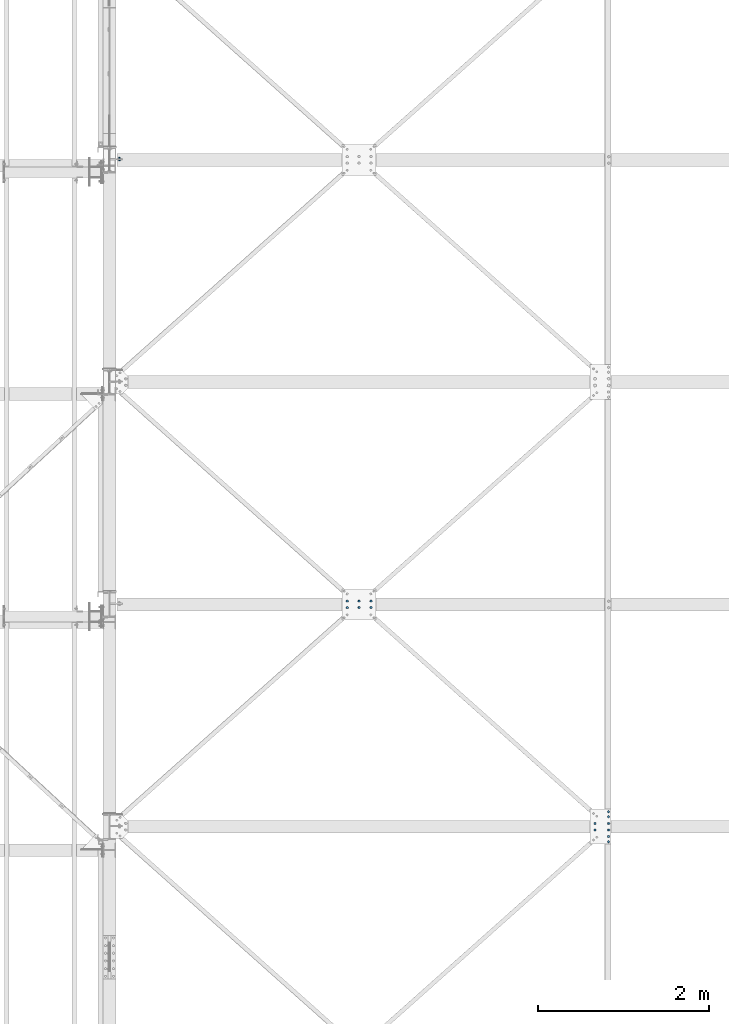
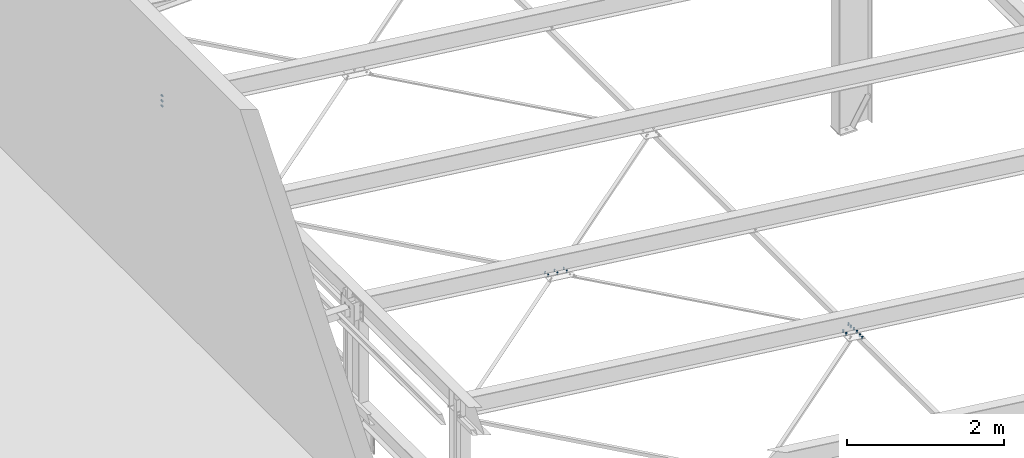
# One storey, part 199 of 3134: 5 mechanical fasteners, 4 elements without a shape of their own.
"""IFC2X3 building model written with IfcOpenShell, lengths in millimetres."""

from ifc_helpers import new_model, si_unit, frame, origin_with_axes, place, context, subcontext, project, spatial, faceted_brep, source, transform, mapped, material, type_object, element, aggregate, save


model = new_model("IFC2X3")

# Units and contexts
model_context = context("Model", 3, precision=1e-05, world=origin_with_axes())
body_context = subcontext(model_context, "Body", "Model", "MODEL_VIEW")
ifc_project = project(units=[si_unit("LENGTHUNIT", "METRE", prefix="MILLI"), si_unit("AREAUNIT", "SQUARE_METRE"), si_unit("VOLUMEUNIT", "CUBIC_METRE"), si_unit("MASSUNIT", "GRAM", prefix="KILO"), si_unit("TIMEUNIT", "SECOND"), si_unit("PLANEANGLEUNIT", "RADIAN"), si_unit("SOLIDANGLEUNIT", "STERADIAN"), si_unit("THERMODYNAMICTEMPERATUREUNIT", "DEGREE_CELSIUS"), si_unit("LUMINOUSINTENSITYUNIT", "LUMEN")], contexts=[model_context])

# Site, building, storey
site_placement = place(None, origin_with_axes())
site = spatial("IfcSite", under=ifc_project, at=site_placement, CompositionType="ELEMENT")
building_placement = place(site_placement, origin_with_axes())
building = spatial("IfcBuilding", under=site, at=building_placement, Name="Undefined", CompositionType="ELEMENT")
storey_placement = place(building_placement, origin_with_axes())
storey = spatial("IfcBuildingStorey", under=building, at=storey_placement, Name="Undefined", CompositionType="ELEMENT", Elevation=0.0)

# Assembly, mechanical fastener
assembly_1_placement = place(storey_placement, origin_with_axes())
assembly_1 = element("IfcElementAssembly", 1, at=assembly_1_placement, inside=storey, Name="300", AssemblyPlace="NOTDEFINED", PredefinedType="RIGID_FRAME")
ifc_material = material(Name="8.8")
mechanical_fastener_type = type_object("IfcMechanicalFastenerType", Name="Bolt assembly")
shared_shape_1 = source(origin_with_axes(), body_context, "Body", "Brep", [
    faceted_brep([(13.856406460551, -19.199990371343, 0.0), (6.92820323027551, -19.199990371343, 12.0), (-6.92820323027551, -19.199990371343, 12.0), (-13.856406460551, -19.199990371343, 1.69692038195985e-15), (-6.92820323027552, -19.199990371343, -12.0), (6.9282032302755, -19.199990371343, -12.0), (6.9282032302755, -9.19999037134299, -12.0), (-6.92820323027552, -9.19999037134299, -12.0), (-13.856406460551, -9.19999037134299, 1.69692038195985e-15), (-6.92820323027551, -9.19999037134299, 12.0), (6.92820323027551, -9.19999037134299, 12.0), (13.856406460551, -9.19999037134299, 0.0), (8.0, -9.19999037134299, 0.0), (6.92820323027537, -9.19999037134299, 4.00000000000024), (3.99999999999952, -9.19999037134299, 6.92820323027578), (-8.29068785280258e-13, -9.19999037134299, 8.0), (-4.00000000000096, -9.19999037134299, 6.92820323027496), (-6.9282032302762, -9.19999037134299, 3.99999999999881), (-8.0, -9.19999037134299, -1.65813757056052e-12), (-6.92820323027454, -9.19999037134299, -4.00000000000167), (-3.99999999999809, -9.19999037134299, -6.92820323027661), (2.47832457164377e-12, -9.19999037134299, -8.0), (4.00000000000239, -9.19999037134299, -6.92820323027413), (6.92820323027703, -9.19999037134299, -3.99999999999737), (6.92820323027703, 25.800009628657, -3.99999999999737), (4.00000000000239, 25.800009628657, -6.92820323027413), (2.47832457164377e-12, 25.800009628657, -8.0), (-3.99999999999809, 25.800009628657, -6.92820323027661), (-6.92820323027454, 25.800009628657, -4.00000000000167), (-8.0, 25.800009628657, -1.65813757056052e-12), (-6.9282032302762, 25.800009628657, 3.99999999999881), (-4.00000000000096, 25.800009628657, 6.92820323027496), (-8.29068785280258e-13, 25.800009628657, 8.0), (3.99999999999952, 25.800009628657, 6.92820323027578), (6.92820323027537, 25.800009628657, 4.00000000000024), (8.0, 25.800009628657, 0.0), (13.856406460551, 8.00000637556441, 0.0), (6.92820323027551, 8.00000637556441, 12.0), (-6.92820323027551, 8.00000637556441, 12.0), (-13.856406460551, 8.00000637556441, 1.69692038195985e-15), (-6.92820323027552, 8.00000637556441, -12.0), (6.9282032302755, 8.00000637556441, -12.0), (6.9282032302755, 21.0000063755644, -12.0), (-6.92820323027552, 21.0000063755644, -12.0), (-13.856406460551, 21.0000063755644, 1.69692038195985e-15), (-6.92820323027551, 21.0000063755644, 12.0), (6.92820323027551, 21.0000063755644, 12.0), (13.856406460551, 21.0000063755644, 0.0)], [[[0, 1, 2, 3, 4, 5]], [[6, 7, 8, 9, 10, 11]], [[0, 11, 10, 1]], [[1, 10, 9, 2]], [[2, 9, 8, 3]], [[3, 8, 7, 4]], [[4, 7, 6, 5]], [[5, 6, 11, 0]], [[12, 13, 14, 15, 16, 17, 18, 19, 20, 21, 22, 23]], [[24, 25, 26, 27, 28, 29, 30, 31, 32, 33, 34, 35]], [[12, 35, 34, 13]], [[13, 34, 33, 14]], [[14, 33, 32, 15]], [[15, 32, 31, 16]], [[16, 31, 30, 17]], [[17, 30, 29, 18]], [[18, 29, 28, 19]], [[19, 28, 27, 20]], [[20, 27, 26, 21]], [[21, 26, 25, 22]], [[22, 25, 24, 23]], [[23, 24, 35, 12]], [[36, 37, 38, 39, 40, 41]], [[42, 43, 44, 45, 46, 47]], [[36, 47, 46, 37]], [[37, 46, 45, 38]], [[38, 45, 44, 39]], [[39, 44, 43, 40]], [[40, 43, 42, 41]], [[41, 42, 47, 36]]]),
    faceted_brep([(9.0, -0.1, 0.0), (7.79422863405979, -0.1, 4.50000000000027), (4.49999999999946, -0.1, 7.79422863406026), (-9.3270238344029e-13, -0.1, 9.0), (-4.50000000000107, -0.1, 7.79422863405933), (-7.79422863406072, -0.1, 4.49999999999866), (-9.0, -0.1, -1.86540476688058e-12), (-7.79422863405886, -0.1, -4.50000000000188), (-4.49999999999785, -0.1, -7.79422863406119), (2.78811514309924e-12, -0.1, -9.0), (4.50000000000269, -0.1, -7.7942286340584), (7.79422863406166, -0.1, -4.49999999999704), (7.79422863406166, 8.00000000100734, -4.49999999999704), (4.50000000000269, 8.00000000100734, -7.7942286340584), (2.78811514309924e-12, 8.00000000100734, -9.0), (-4.49999999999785, 8.00000000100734, -7.79422863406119), (-7.79422863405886, 8.00000000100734, -4.50000000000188), (-9.0, 8.00000000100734, -1.86540476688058e-12), (-7.79422863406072, 8.00000000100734, 4.49999999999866), (-4.50000000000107, 8.00000000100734, 7.79422863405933), (-9.3270238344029e-13, 8.00000000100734, 9.0), (4.49999999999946, 8.00000000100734, 7.79422863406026), (7.79422863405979, 8.00000000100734, 4.50000000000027), (9.0, 8.00000000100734, 0.0), (9.0, -9.09999037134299, 0.0), (7.79422863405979, -9.09999037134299, 4.50000000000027), (4.49999999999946, -9.09999037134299, 7.79422863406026), (-9.3270238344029e-13, -9.09999037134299, 9.0), (-4.50000000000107, -9.09999037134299, 7.79422863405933), (-7.79422863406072, -9.09999037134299, 4.49999999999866), (-9.0, -9.09999037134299, -1.86540476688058e-12), (-7.79422863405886, -9.09999037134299, -4.50000000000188), (-4.49999999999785, -9.09999037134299, -7.79422863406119), (2.78811514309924e-12, -9.09999037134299, -9.0), (4.50000000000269, -9.09999037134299, -7.7942286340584), (7.79422863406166, -9.09999037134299, -4.49999999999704), (7.79422863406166, 0.100000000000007, -4.49999999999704), (4.50000000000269, 0.100000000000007, -7.7942286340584), (2.78811514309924e-12, 0.100000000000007, -9.0), (-4.49999999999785, 0.100000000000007, -7.79422863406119), (-7.79422863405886, 0.100000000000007, -4.50000000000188), (-9.0, 0.100000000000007, -1.86540476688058e-12), (-7.79422863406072, 0.100000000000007, 4.49999999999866), (-4.50000000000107, 0.100000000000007, 7.79422863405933), (-9.3270238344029e-13, 0.100000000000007, 9.0), (4.49999999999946, 0.100000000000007, 7.79422863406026), (7.79422863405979, 0.100000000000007, 4.50000000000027), (9.0, 0.100000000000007, 0.0)], [[[0, 1, 2, 3, 4, 5, 6, 7, 8, 9, 10, 11]], [[12, 13, 14, 15, 16, 17, 18, 19, 20, 21, 22, 23]], [[0, 23, 22, 1]], [[1, 22, 21, 2]], [[2, 21, 20, 3]], [[3, 20, 19, 4]], [[4, 19, 18, 5]], [[5, 18, 17, 6]], [[6, 17, 16, 7]], [[7, 16, 15, 8]], [[8, 15, 14, 9]], [[9, 14, 13, 10]], [[10, 13, 12, 11]], [[11, 12, 23, 0]], [[24, 25, 26, 27, 28, 29, 30, 31, 32, 33, 34, 35]], [[36, 37, 38, 39, 40, 41, 42, 43, 44, 45, 46, 47]], [[24, 47, 46, 25]], [[25, 46, 45, 26]], [[26, 45, 44, 27]], [[27, 44, 43, 28]], [[28, 43, 42, 29]], [[29, 42, 41, 30]], [[30, 41, 40, 31]], [[31, 40, 39, 32]], [[32, 39, 38, 33]], [[33, 38, 37, 34]], [[34, 37, 36, 35]], [[35, 36, 47, 24]]]),
])
mechanical_fastener_1_placement = place(assembly_1_placement, frame((26608.5751064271, 29812.0, 4816.43281405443), z_axis=(-0.992623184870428, 0.0, 0.121240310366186), x_axis=(0.0, 1.0, 0.0)))
mechanical_fastener_1 = element("IfcMechanicalFastener", 2, at=mechanical_fastener_1_placement, type_object=mechanical_fastener_type, material=ifc_material, Name="Bolt assembly", NominalDiameter=16.0, NominalLength=35.0, context=body_context, shape_type="MappedRepresentation", body=[
    mapped(shared_shape_1, transform((0.0, -5.32963895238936e-10, -79.9999999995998))),
    mapped(shared_shape_1, transform((76.0, -5.32963895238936e-10, -79.9999999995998))),
    mapped(shared_shape_1, transform((0.0, 5.3114490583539e-10, 79.9999999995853))),
    mapped(shared_shape_1, transform((76.0, 5.3114490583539e-10, 79.9999999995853))),
])
aggregate(assembly_1, [mechanical_fastener_1])

assembly_2_placement = place(storey_placement, origin_with_axes())
assembly_2 = element("IfcElementAssembly", 3, at=assembly_2_placement, inside=storey, Name="300", AssemblyPlace="NOTDEFINED", PredefinedType="RIGID_FRAME")
shared_shape_2 = source(origin_with_axes(), body_context, "Body", "Brep", [
    faceted_brep([(13.856406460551, -13.0499999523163, 0.0), (6.92820323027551, -13.0499999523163, 12.0), (-6.92820323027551, -13.0499999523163, 12.0), (-13.856406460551, -13.0499999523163, 1.69692038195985e-15), (-6.92820323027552, -13.0499999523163, -12.0), (6.9282032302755, -13.0499999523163, -12.0), (6.9282032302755, -3.04999995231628, -12.0), (-6.92820323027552, -3.04999995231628, -12.0), (-13.856406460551, -3.04999995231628, 1.69692038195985e-15), (-6.92820323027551, -3.04999995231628, 12.0), (6.92820323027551, -3.04999995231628, 12.0), (13.856406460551, -3.04999995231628, 0.0), (8.0, -3.04999995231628, 0.0), (6.92820323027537, -3.04999995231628, 4.00000000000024), (3.99999999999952, -3.04999995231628, 6.92820323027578), (-8.29068785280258e-13, -3.04999995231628, 8.0), (-4.00000000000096, -3.04999995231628, 6.92820323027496), (-6.9282032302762, -3.04999995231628, 3.99999999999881), (-8.0, -3.04999995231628, -1.65813757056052e-12), (-6.92820323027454, -3.04999995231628, -4.00000000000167), (-3.99999999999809, -3.04999995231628, -6.92820323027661), (2.47832457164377e-12, -3.04999995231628, -8.0), (4.00000000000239, -3.04999995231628, -6.92820323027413), (6.92820323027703, -3.04999995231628, -3.99999999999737), (6.92820323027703, 31.9500000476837, -3.99999999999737), (4.00000000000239, 31.9500000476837, -6.92820323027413), (2.47832457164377e-12, 31.9500000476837, -8.0), (-3.99999999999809, 31.9500000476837, -6.92820323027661), (-6.92820323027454, 31.9500000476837, -4.00000000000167), (-8.0, 31.9500000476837, -1.65813757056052e-12), (-6.9282032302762, 31.9500000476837, 3.99999999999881), (-4.00000000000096, 31.9500000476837, 6.92820323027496), (-8.29068785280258e-13, 31.9500000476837, 8.0), (3.99999999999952, 31.9500000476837, 6.92820323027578), (6.92820323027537, 31.9500000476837, 4.00000000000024), (8.0, 31.9500000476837, 0.0), (13.856406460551, 13.0500000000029, 0.0), (6.92820323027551, 13.0500000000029, 12.0), (-6.92820323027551, 13.0500000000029, 12.0), (-13.856406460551, 13.0500000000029, 1.69692038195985e-15), (-6.92820323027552, 13.0500000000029, -12.0), (6.9282032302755, 13.0500000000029, -12.0), (6.9282032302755, 26.0500000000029, -12.0), (-6.92820323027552, 26.0500000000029, -12.0), (-13.856406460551, 26.0500000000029, 1.69692038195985e-15), (-6.92820323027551, 26.0500000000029, 12.0), (6.92820323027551, 26.0500000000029, 12.0), (13.856406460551, 26.0500000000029, 0.0)], [[[0, 1, 2, 3, 4, 5]], [[6, 7, 8, 9, 10, 11]], [[0, 11, 10, 1]], [[1, 10, 9, 2]], [[2, 9, 8, 3]], [[3, 8, 7, 4]], [[4, 7, 6, 5]], [[5, 6, 11, 0]], [[12, 13, 14, 15, 16, 17, 18, 19, 20, 21, 22, 23]], [[24, 25, 26, 27, 28, 29, 30, 31, 32, 33, 34, 35]], [[12, 35, 34, 13]], [[13, 34, 33, 14]], [[14, 33, 32, 15]], [[15, 32, 31, 16]], [[16, 31, 30, 17]], [[17, 30, 29, 18]], [[18, 29, 28, 19]], [[19, 28, 27, 20]], [[20, 27, 26, 21]], [[21, 26, 25, 22]], [[22, 25, 24, 23]], [[23, 24, 35, 12]], [[36, 37, 38, 39, 40, 41]], [[42, 43, 44, 45, 46, 47]], [[36, 47, 46, 37]], [[37, 46, 45, 38]], [[38, 45, 44, 39]], [[39, 44, 43, 40]], [[40, 43, 42, 41]], [[41, 42, 47, 36]]]),
    faceted_brep([(9.0, 2.95000000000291, 0.0), (7.79422863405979, 2.95000000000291, 4.50000000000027), (4.49999999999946, 2.95000000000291, 7.79422863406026), (-9.3270238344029e-13, 2.95000000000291, 9.0), (-4.50000000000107, 2.95000000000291, 7.79422863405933), (-7.79422863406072, 2.95000000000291, 4.49999999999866), (-9.0, 2.95000000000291, -1.86540476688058e-12), (-7.79422863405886, 2.95000000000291, -4.50000000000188), (-4.49999999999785, 2.95000000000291, -7.79422863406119), (2.78811514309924e-12, 2.95000000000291, -9.0), (4.50000000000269, 2.95000000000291, -7.7942286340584), (7.79422863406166, 2.95000000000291, -4.49999999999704), (7.79422863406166, 13.0500000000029, -4.49999999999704), (4.50000000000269, 13.0500000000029, -7.7942286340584), (2.78811514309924e-12, 13.0500000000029, -9.0), (-4.49999999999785, 13.0500000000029, -7.79422863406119), (-7.79422863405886, 13.0500000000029, -4.50000000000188), (-9.0, 13.0500000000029, -1.86540476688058e-12), (-7.79422863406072, 13.0500000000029, 4.49999999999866), (-4.50000000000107, 13.0500000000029, 7.79422863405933), (-9.3270238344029e-13, 13.0500000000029, 9.0), (4.49999999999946, 13.0500000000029, 7.79422863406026), (7.79422863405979, 13.0500000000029, 4.50000000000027), (9.0, 13.0500000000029, 0.0), (9.0, -2.94999995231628, 0.0), (7.79422863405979, -2.94999995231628, 4.50000000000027), (4.49999999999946, -2.94999995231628, 7.79422863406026), (-9.3270238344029e-13, -2.94999995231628, 9.0), (-4.50000000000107, -2.94999995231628, 7.79422863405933), (-7.79422863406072, -2.94999995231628, 4.49999999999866), (-9.0, -2.94999995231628, -1.86540476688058e-12), (-7.79422863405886, -2.94999995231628, -4.50000000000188), (-4.49999999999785, -2.94999995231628, -7.79422863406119), (2.78811514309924e-12, -2.94999995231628, -9.0), (4.50000000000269, -2.94999995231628, -7.7942286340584), (7.79422863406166, -2.94999995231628, -4.49999999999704), (7.79422863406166, 3.14999995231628, -4.49999999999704), (4.50000000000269, 3.14999995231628, -7.7942286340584), (2.78811514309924e-12, 3.14999995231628, -9.0), (-4.49999999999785, 3.14999995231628, -7.79422863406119), (-7.79422863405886, 3.14999995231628, -4.50000000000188), (-9.0, 3.14999995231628, -1.86540476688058e-12), (-7.79422863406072, 3.14999995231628, 4.49999999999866), (-4.50000000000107, 3.14999995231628, 7.79422863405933), (-9.3270238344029e-13, 3.14999995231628, 9.0), (4.49999999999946, 3.14999995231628, 7.79422863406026), (7.79422863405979, 3.14999995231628, 4.50000000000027), (9.0, 3.14999995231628, 0.0)], [[[0, 1, 2, 3, 4, 5, 6, 7, 8, 9, 10, 11]], [[12, 13, 14, 15, 16, 17, 18, 19, 20, 21, 22, 23]], [[0, 23, 22, 1]], [[1, 22, 21, 2]], [[2, 21, 20, 3]], [[3, 20, 19, 4]], [[4, 19, 18, 5]], [[5, 18, 17, 6]], [[6, 17, 16, 7]], [[7, 16, 15, 8]], [[8, 15, 14, 9]], [[9, 14, 13, 10]], [[10, 13, 12, 11]], [[11, 12, 23, 0]], [[24, 25, 26, 27, 28, 29, 30, 31, 32, 33, 34, 35]], [[36, 37, 38, 39, 40, 41, 42, 43, 44, 45, 46, 47]], [[24, 47, 46, 25]], [[25, 46, 45, 26]], [[26, 45, 44, 27]], [[27, 44, 43, 28]], [[28, 43, 42, 29]], [[29, 42, 41, 30]], [[30, 41, 40, 31]], [[31, 40, 39, 32]], [[32, 39, 38, 33]], [[33, 38, 37, 34]], [[34, 37, 36, 35]], [[35, 36, 47, 24]]]),
])
mechanical_fastener_2_placement = place(assembly_2_placement, frame((20965.0, 37650.0, 5735.35014950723), z_axis=(1.0, 0.0, 0.0), x_axis=(0.0, 0.0, -1.0)))
mechanical_fastener_2 = element("IfcMechanicalFastener", 4, at=mechanical_fastener_2_placement, type_object=mechanical_fastener_type, material=ifc_material, Name="Bolt assembly", NominalDiameter=16.0, NominalLength=35.0, context=body_context, shape_type="MappedRepresentation", body=[
    mapped(shared_shape_2, transform((0.0, 0.0, 0.0))),
    mapped(shared_shape_2, transform((80.0, 0.0, 0.0))),
    mapped(shared_shape_2, transform((160.0, 0.0, 0.0))),
])
aggregate(assembly_2, [mechanical_fastener_2])

# Assembly, mechanical fasteners
assembly_3_placement = place(storey_placement, origin_with_axes())
assembly_3 = element("IfcElementAssembly", 5, at=assembly_3_placement, inside=storey, Name="PL8", AssemblyPlace="NOTDEFINED", PredefinedType="RIGID_FRAME")
shared_shape_3 = source(origin_with_axes(), body_context, "Body", "Brep", [
    faceted_brep([(13.856406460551, -10.0, 0.0), (6.92820323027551, -10.0, 12.0), (-6.92820323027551, -10.0, 12.0), (-13.856406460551, -10.0, 1.69692038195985e-15), (-6.92820323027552, -10.0, -12.0), (6.9282032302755, -10.0, -12.0), (6.9282032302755, 0.0, -12.0), (-6.92820323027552, 0.0, -12.0), (-13.856406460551, 0.0, 1.69692038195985e-15), (-6.92820323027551, 0.0, 12.0), (6.92820323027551, 0.0, 12.0), (13.856406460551, 0.0, 0.0), (8.0, 0.0, 0.0), (6.92820323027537, 0.0, 4.00000000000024), (3.99999999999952, 0.0, 6.92820323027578), (-8.29068785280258e-13, 0.0, 8.0), (-4.00000000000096, 0.0, 6.92820323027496), (-6.9282032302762, 0.0, 3.99999999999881), (-8.0, 0.0, -1.65813757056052e-12), (-6.92820323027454, 0.0, -4.00000000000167), (-3.99999999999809, 0.0, -6.92820323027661), (2.47832457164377e-12, 0.0, -8.0), (4.00000000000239, 0.0, -6.92820323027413), (6.92820323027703, 0.0, -3.99999999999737), (6.92820323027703, 35.0000000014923, -3.99999999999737), (4.00000000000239, 35.0000000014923, -6.92820323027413), (2.47832457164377e-12, 35.0000000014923, -8.0), (-3.99999999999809, 35.0000000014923, -6.92820323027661), (-6.92820323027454, 35.0000000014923, -4.00000000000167), (-8.0, 35.0000000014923, -1.65813757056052e-12), (-6.9282032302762, 35.0000000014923, 3.99999999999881), (-4.00000000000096, 35.0000000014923, 6.92820323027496), (-8.29068785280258e-13, 35.0000000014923, 8.0), (3.99999999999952, 35.0000000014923, 6.92820323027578), (6.92820323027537, 35.0000000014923, 4.00000000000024), (8.0, 35.0000000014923, 0.0), (13.856406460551, 14.9999995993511, 0.0), (6.92820323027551, 14.9999995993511, 12.0), (-6.92820323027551, 14.9999995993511, 12.0), (-13.856406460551, 14.9999995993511, 1.69692038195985e-15), (-6.92820323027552, 14.9999995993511, -12.0), (6.9282032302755, 14.9999995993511, -12.0), (6.9282032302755, 27.9999995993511, -12.0), (-6.92820323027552, 27.9999995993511, -12.0), (-13.856406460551, 27.9999995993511, 1.69692038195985e-15), (-6.92820323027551, 27.9999995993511, 12.0), (6.92820323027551, 27.9999995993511, 12.0), (13.856406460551, 27.9999995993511, 0.0)], [[[0, 1, 2, 3, 4, 5]], [[6, 7, 8, 9, 10, 11]], [[0, 11, 10, 1]], [[1, 10, 9, 2]], [[2, 9, 8, 3]], [[3, 8, 7, 4]], [[4, 7, 6, 5]], [[5, 6, 11, 0]], [[12, 13, 14, 15, 16, 17, 18, 19, 20, 21, 22, 23]], [[24, 25, 26, 27, 28, 29, 30, 31, 32, 33, 34, 35]], [[12, 35, 34, 13]], [[13, 34, 33, 14]], [[14, 33, 32, 15]], [[15, 32, 31, 16]], [[16, 31, 30, 17]], [[17, 30, 29, 18]], [[18, 29, 28, 19]], [[19, 28, 27, 20]], [[20, 27, 26, 21]], [[21, 26, 25, 22]], [[22, 25, 24, 23]], [[23, 24, 35, 12]], [[36, 37, 38, 39, 40, 41]], [[42, 43, 44, 45, 46, 47]], [[36, 47, 46, 37]], [[37, 46, 45, 38]], [[38, 45, 44, 39]], [[39, 44, 43, 40]], [[40, 43, 42, 41]], [[41, 42, 47, 36]]]),
    faceted_brep([(9.0, 7.9, 0.0), (7.79422863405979, 7.9, 4.50000000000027), (4.49999999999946, 7.9, 7.79422863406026), (-9.3270238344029e-13, 7.9, 9.0), (-4.50000000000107, 7.9, 7.79422863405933), (-7.79422863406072, 7.9, 4.49999999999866), (-9.0, 7.9, -1.86540476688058e-12), (-7.79422863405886, 7.9, -4.50000000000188), (-4.49999999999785, 7.9, -7.79422863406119), (2.78811514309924e-12, 7.9, -9.0), (4.50000000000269, 7.9, -7.7942286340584), (7.79422863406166, 7.9, -4.49999999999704), (7.79422863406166, 14.9999995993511, -4.49999999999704), (4.50000000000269, 14.9999995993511, -7.7942286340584), (2.78811514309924e-12, 14.9999995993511, -9.0), (-4.49999999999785, 14.9999995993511, -7.79422863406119), (-7.79422863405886, 14.9999995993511, -4.50000000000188), (-9.0, 14.9999995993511, -1.86540476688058e-12), (-7.79422863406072, 14.9999995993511, 4.49999999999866), (-4.50000000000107, 14.9999995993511, 7.79422863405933), (-9.3270238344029e-13, 14.9999995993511, 9.0), (4.49999999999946, 14.9999995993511, 7.79422863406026), (7.79422863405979, 14.9999995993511, 4.50000000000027), (9.0, 14.9999995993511, 0.0), (9.0, 0.100000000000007, 0.0), (7.79422863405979, 0.100000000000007, 4.50000000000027), (4.49999999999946, 0.100000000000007, 7.79422863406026), (-9.3270238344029e-13, 0.100000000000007, 9.0), (-4.50000000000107, 0.100000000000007, 7.79422863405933), (-7.79422863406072, 0.100000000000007, 4.49999999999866), (-9.0, 0.100000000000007, -1.86540476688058e-12), (-7.79422863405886, 0.100000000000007, -4.50000000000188), (-4.49999999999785, 0.100000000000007, -7.79422863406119), (2.78811514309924e-12, 0.100000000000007, -9.0), (4.50000000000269, 0.100000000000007, -7.7942286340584), (7.79422863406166, 0.100000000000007, -4.49999999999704), (7.79422863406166, 8.1, -4.49999999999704), (4.50000000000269, 8.1, -7.7942286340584), (2.78811514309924e-12, 8.1, -9.0), (-4.49999999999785, 8.1, -7.79422863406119), (-7.79422863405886, 8.1, -4.50000000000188), (-9.0, 8.1, -1.86540476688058e-12), (-7.79422863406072, 8.1, 4.49999999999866), (-4.50000000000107, 8.1, 7.79422863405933), (-9.3270238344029e-13, 8.1, 9.0), (4.49999999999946, 8.1, 7.79422863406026), (7.79422863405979, 8.1, 4.50000000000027), (9.0, 8.1, 0.0)], [[[0, 1, 2, 3, 4, 5, 6, 7, 8, 9, 10, 11]], [[12, 13, 14, 15, 16, 17, 18, 19, 20, 21, 22, 23]], [[0, 23, 22, 1]], [[1, 22, 21, 2]], [[2, 21, 20, 3]], [[3, 20, 19, 4]], [[4, 19, 18, 5]], [[5, 18, 17, 6]], [[6, 17, 16, 7]], [[7, 16, 15, 8]], [[8, 15, 14, 9]], [[9, 14, 13, 10]], [[10, 13, 12, 11]], [[11, 12, 23, 0]], [[24, 25, 26, 27, 28, 29, 30, 31, 32, 33, 34, 35]], [[36, 37, 38, 39, 40, 41, 42, 43, 44, 45, 46, 47]], [[24, 47, 46, 25]], [[25, 46, 45, 26]], [[26, 45, 44, 27]], [[27, 44, 43, 28]], [[28, 43, 42, 29]], [[29, 42, 41, 30]], [[30, 41, 40, 31]], [[31, 40, 39, 32]], [[32, 39, 38, 33]], [[33, 38, 37, 34]], [[34, 37, 36, 35]], [[35, 36, 47, 24]]]),
])
mechanical_fastener_3_placement = place(assembly_3_placement, frame((26687.9849612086, 30025.0, 4806.73358922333), z_axis=(0.992623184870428, 0.0, -0.121240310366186), x_axis=(0.0, -1.0, 0.0)))
mechanical_fastener_3 = element("IfcMechanicalFastener", 6, at=mechanical_fastener_3_placement, type_object=mechanical_fastener_type, material=ifc_material, Name="Bolt assembly", NominalDiameter=16.0, NominalLength=35.0, context=body_context, shape_type="MappedRepresentation", body=[
    mapped(shared_shape_3, transform((0.0, 0.0, 0.0))),
    mapped(shared_shape_3, transform((59.9999999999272, 0.0, 5.40239852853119e-10))),
])
mechanical_fastener_4_placement = place(assembly_3_placement, frame((26687.9849612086, 29735.0, 4806.73358922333), z_axis=(0.992623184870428, 0.0, -0.121240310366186), x_axis=(0.0, -1.0, 0.0)))
mechanical_fastener_4 = element("IfcMechanicalFastener", 7, at=mechanical_fastener_4_placement, type_object=mechanical_fastener_type, material=ifc_material, Name="Bolt assembly", NominalDiameter=16.0, NominalLength=35.0, context=body_context, shape_type="MappedRepresentation", body=[
    mapped(shared_shape_3, transform((0.0, 0.0, 0.0))),
    mapped(shared_shape_3, transform((59.9999999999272, 0.0, 5.40239852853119e-10))),
])
aggregate(assembly_3, [mechanical_fastener_3, mechanical_fastener_4])

# Assembly, mechanical fastener
assembly_4_placement = place(storey_placement, origin_with_axes())
assembly_4 = element("IfcElementAssembly", 8, at=assembly_4_placement, inside=storey, Name="300", AssemblyPlace="NOTDEFINED", PredefinedType="RIGID_FRAME")
shared_shape_4 = source(origin_with_axes(), body_context, "Body", "Brep", [
    faceted_brep([(10.9696551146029, -17.1999998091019, 0.0), (5.48482755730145, -17.1999998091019, 9.5), (-5.48482755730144, -17.1999998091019, 9.5), (-10.9696551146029, -17.1999998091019, 1.34339530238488e-15), (-5.48482755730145, -17.1999998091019, -9.5), (5.48482755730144, -17.1999998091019, -9.50000000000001), (5.48482755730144, -9.19999978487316, -9.50000000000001), (-5.48482755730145, -9.19999978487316, -9.5), (-10.9696551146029, -9.19999978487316, 1.34339530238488e-15), (-5.48482755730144, -9.19999978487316, 9.5), (5.48482755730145, -9.19999978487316, 9.5), (10.9696551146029, -9.19999978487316, 0.0), (6.0, -9.19999978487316, 0.0), (5.19615242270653, -9.19999978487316, 3.00000000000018), (2.99999999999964, -9.19999978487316, 5.19615242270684), (-6.21801588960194e-13, -9.19999978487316, 6.0), (-3.00000000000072, -9.19999978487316, 5.19615242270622), (-5.19615242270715, -9.19999978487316, 2.9999999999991), (-6.0, -9.19999978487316, -1.24360317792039e-12), (-5.19615242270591, -9.19999978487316, -3.00000000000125), (-2.99999999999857, -9.19999978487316, -5.19615242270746), (1.85874342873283e-12, -9.19999978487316, -6.0), (3.00000000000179, -9.19999978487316, -5.1961524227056), (5.19615242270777, -9.19999978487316, -2.99999999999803), (5.19615242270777, 25.8000002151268, -2.99999999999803), (3.00000000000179, 25.8000002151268, -5.1961524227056), (1.85874342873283e-12, 25.8000002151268, -6.0), (-2.99999999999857, 25.8000002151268, -5.19615242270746), (-5.19615242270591, 25.8000002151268, -3.00000000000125), (-6.0, 25.8000002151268, -1.24360317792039e-12), (-5.19615242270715, 25.8000002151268, 2.9999999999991), (-3.00000000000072, 25.8000002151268, 5.19615242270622), (-6.21801588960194e-13, 25.8000002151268, 6.0), (2.99999999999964, 25.8000002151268, 5.19615242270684), (5.19615242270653, 25.8000002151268, 3.00000000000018), (6.0, 25.8000002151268, 0.0), (10.9696551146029, 8.0, 0.0), (5.48482755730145, 8.0, 9.5), (-5.48482755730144, 8.0, 9.5), (-10.9696551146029, 8.0, 1.34339530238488e-15), (-5.48482755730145, 8.0, -9.5), (5.48482755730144, 8.0, -9.50000000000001), (5.48482755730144, 18.0, -9.50000000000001), (-5.48482755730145, 18.0, -9.5), (-10.9696551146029, 18.0, 1.34339530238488e-15), (-5.48482755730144, 18.0, 9.5), (5.48482755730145, 18.0, 9.5), (10.9696551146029, 18.0, 0.0)], [[[0, 1, 2, 3, 4, 5]], [[6, 7, 8, 9, 10, 11]], [[0, 11, 10, 1]], [[1, 10, 9, 2]], [[2, 9, 8, 3]], [[3, 8, 7, 4]], [[4, 7, 6, 5]], [[5, 6, 11, 0]], [[12, 13, 14, 15, 16, 17, 18, 19, 20, 21, 22, 23]], [[24, 25, 26, 27, 28, 29, 30, 31, 32, 33, 34, 35]], [[12, 35, 34, 13]], [[13, 34, 33, 14]], [[14, 33, 32, 15]], [[15, 32, 31, 16]], [[16, 31, 30, 17]], [[17, 30, 29, 18]], [[18, 29, 28, 19]], [[19, 28, 27, 20]], [[20, 27, 26, 21]], [[21, 26, 25, 22]], [[22, 25, 24, 23]], [[23, 24, 35, 12]], [[36, 37, 38, 39, 40, 41]], [[42, 43, 44, 45, 46, 47]], [[36, 47, 46, 37]], [[37, 46, 45, 38]], [[38, 45, 44, 39]], [[39, 44, 43, 40]], [[40, 43, 42, 41]], [[41, 42, 47, 36]]]),
    faceted_brep([(7.0, -0.1, 0.0), (6.06217782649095, -0.1, 3.50000000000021), (3.49999999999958, -0.1, 6.06217782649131), (-7.25435187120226e-13, -0.1, 7.0), (-3.50000000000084, -0.1, 6.06217782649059), (-6.06217782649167, -0.1, 3.49999999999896), (-7.0, -0.1, -1.45087037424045e-12), (-6.06217782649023, -0.1, -3.50000000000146), (-3.49999999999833, -0.1, -6.06217782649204), (2.1685340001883e-12, -0.1, -7.0), (3.50000000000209, -0.1, -6.06217782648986), (6.0621778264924, -0.1, -3.4999999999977), (6.0621778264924, 8.0000000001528, -3.4999999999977), (3.50000000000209, 8.0000000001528, -6.06217782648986), (2.1685340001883e-12, 8.0000000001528, -7.0), (-3.49999999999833, 8.0000000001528, -6.06217782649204), (-6.06217782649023, 8.0000000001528, -3.50000000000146), (-7.0, 8.0000000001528, -1.45087037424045e-12), (-6.06217782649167, 8.0000000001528, 3.49999999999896), (-3.50000000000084, 8.0000000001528, 6.06217782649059), (-7.25435187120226e-13, 8.0000000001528, 7.0), (3.49999999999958, 8.0000000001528, 6.06217782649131), (6.06217782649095, 8.0000000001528, 3.50000000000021), (7.0, 8.0000000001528, 0.0), (7.0, -9.09999980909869, 0.0), (6.06217782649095, -9.09999980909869, 3.50000000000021), (3.49999999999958, -9.09999980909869, 6.06217782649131), (-7.25435187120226e-13, -9.09999980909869, 7.0), (-3.50000000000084, -9.09999980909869, 6.06217782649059), (-6.06217782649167, -9.09999980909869, 3.49999999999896), (-7.0, -9.09999980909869, -1.45087037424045e-12), (-6.06217782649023, -9.09999980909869, -3.50000000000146), (-3.49999999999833, -9.09999980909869, -6.06217782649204), (2.1685340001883e-12, -9.09999980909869, -7.0), (3.50000000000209, -9.09999980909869, -6.06217782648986), (6.0621778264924, -9.09999980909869, -3.4999999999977), (6.0621778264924, 0.0999999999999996, -3.4999999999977), (3.50000000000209, 0.0999999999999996, -6.06217782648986), (2.1685340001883e-12, 0.0999999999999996, -7.0), (-3.49999999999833, 0.0999999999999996, -6.06217782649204), (-6.06217782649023, 0.0999999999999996, -3.50000000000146), (-7.0, 0.0999999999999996, -1.45087037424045e-12), (-6.06217782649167, 0.0999999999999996, 3.49999999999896), (-3.50000000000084, 0.0999999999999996, 6.06217782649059), (-7.25435187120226e-13, 0.0999999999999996, 7.0), (3.49999999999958, 0.0999999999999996, 6.06217782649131), (6.06217782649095, 0.0999999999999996, 3.50000000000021), (7.0, 0.0999999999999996, 0.0)], [[[0, 1, 2, 3, 4, 5, 6, 7, 8, 9, 10, 11]], [[12, 13, 14, 15, 16, 17, 18, 19, 20, 21, 22, 23]], [[0, 23, 22, 1]], [[1, 22, 21, 2]], [[2, 21, 20, 3]], [[3, 20, 19, 4]], [[4, 19, 18, 5]], [[5, 18, 17, 6]], [[6, 17, 16, 7]], [[7, 16, 15, 8]], [[8, 15, 14, 9]], [[9, 14, 13, 10]], [[10, 13, 12, 11]], [[11, 12, 23, 0]], [[24, 25, 26, 27, 28, 29, 30, 31, 32, 33, 34, 35]], [[36, 37, 38, 39, 40, 41, 42, 43, 44, 45, 46, 47]], [[24, 47, 46, 25]], [[25, 46, 45, 26]], [[26, 45, 44, 27]], [[27, 44, 43, 28]], [[28, 43, 42, 29]], [[29, 42, 41, 30]], [[30, 41, 40, 31]], [[31, 40, 39, 32]], [[32, 39, 38, 33]], [[33, 38, 37, 34]], [[34, 37, 36, 35]], [[35, 36, 47, 24]]]),
])
mechanical_fastener_5_placement = place(assembly_4_placement, frame((23908.2022067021, 32450.0, 5146.25993625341), z_axis=(0.0, -1.0, 0.0), x_axis=(-0.992623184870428, 0.0, 0.121240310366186)))
mechanical_fastener_5 = element("IfcMechanicalFastener", 9, at=mechanical_fastener_5_placement, type_object=mechanical_fastener_type, material=ifc_material, Name="Bolt assembly", NominalDiameter=12.0, NominalLength=35.0, context=body_context, shape_type="MappedRepresentation", body=[
    mapped(shared_shape_4, transform((0.0, 0.0, -38.0))),
    mapped(shared_shape_4, transform((140.000000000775, 5.85714587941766e-10, -38.0))),
    mapped(shared_shape_4, transform((279.999999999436, -4.74756234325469e-10, -38.0))),
    mapped(shared_shape_4, transform((0.0, 0.0, 38.0))),
    mapped(shared_shape_4, transform((140.000000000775, 5.85714587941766e-10, 38.0))),
    mapped(shared_shape_4, transform((279.999999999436, -4.74756234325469e-10, 38.0))),
])
aggregate(assembly_4, [mechanical_fastener_5])

save(model, "model.ifc")
